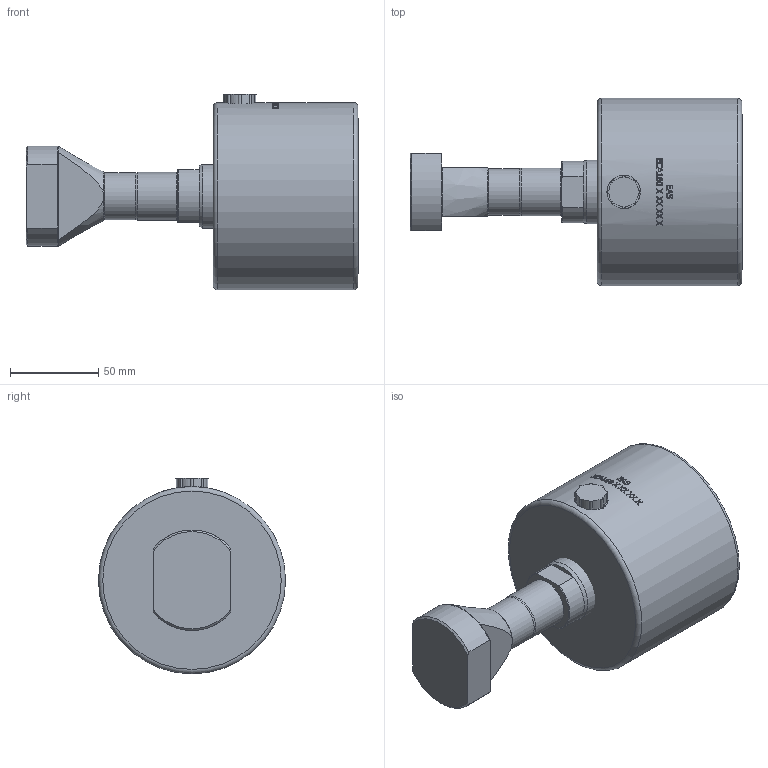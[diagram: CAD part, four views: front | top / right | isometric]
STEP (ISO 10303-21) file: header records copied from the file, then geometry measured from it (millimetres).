
FILE_DESCRIPTION(/* description */ (''),/* implementation_level */ '2;1');
FILE_NAME(/* name */ 'S:\EASCN Vault\Designs\Standard Part\T-SLOT\PULL CYLINDERS\ECA-160\ECA-160-28-XX_(20200416).stp',/* time_stamp */ '2020-04-16T13:36:25+08:00',/* author */ ('yue.yang'),/* organization */ (''),/* preprocessor_version */ 'ST-DEVELOPER v17',/* originating_system */ 'Autodesk Inventor 2019',/* authorisation */ '');
FILE_SCHEMA (('AUTOMOTIVE_DESIGN { 1 0 10303 214 3 1 1 }'));
Products named in the file (1): ECA-160-28-XX_Shrinkwrap_1
Bounding box: 188 x 106 x 110.8 mm (x, y, z)
Volume: 1097165.4 mm3; surface area: 112122.3 mm2
Topology: 6 solids, 6 shells, 334 faces, 910 edges, 615 vertices
Faces by surface type: bspline 124, plane 112, cylinder 63, cone 22, torus 13
Full cylindrical faces by diameter (mm): 6.2 x2, 10.8 x1, 11.445 x1, 13.157 x1, 19 x1, 20.3 x1, 22.1 x1, 24 x2, 26.5 x1, 27 x1, 34 x1, 35.375 x1, 35.975 x1, 57.5 x1, 58 x1, 75.9 x1, 84.88 x2, 90 x1, 106 x1
Entity records: 35239 total; most frequent: CARTESIAN_POINT 27192, ORIENTED_EDGE 1814, DIRECTION 1228, EDGE_CURVE 907, VERTEX_POINT 615, AXIS2_PLACEMENT_3D 463, EDGE_LOOP 368, B_SPLINE_CURVE_WITH_KNOTS 341
